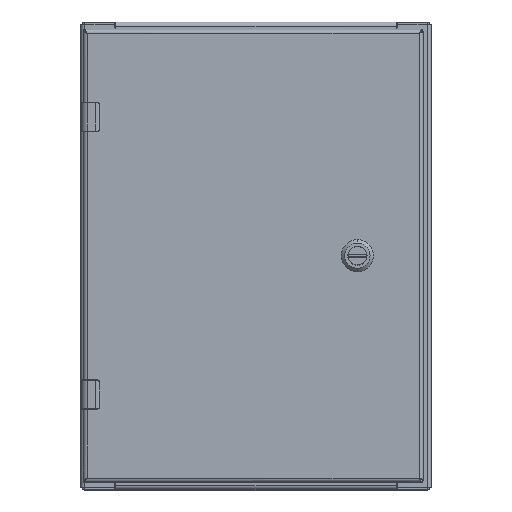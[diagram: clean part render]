
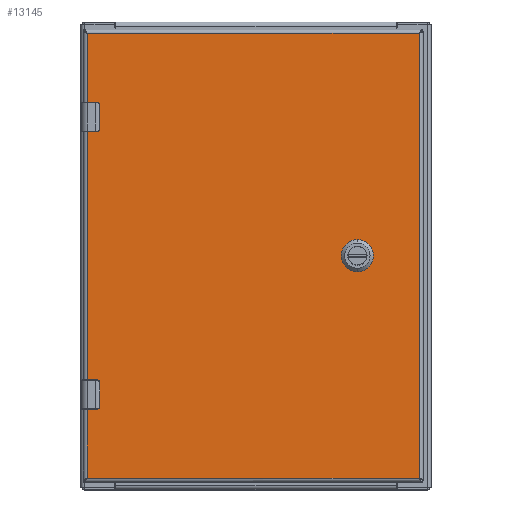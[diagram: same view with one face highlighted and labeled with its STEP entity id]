
A CAD part, top view. The second image highlights one B-rep face of the part: STEP entity #13145.
In plain terms, the highlighted planar face has unit normal (0, 0, 1).
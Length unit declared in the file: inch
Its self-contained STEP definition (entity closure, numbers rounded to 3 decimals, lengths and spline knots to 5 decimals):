
#10364=CARTESIAN_POINT('',(3.5625,0.,0.));
#10365=DIRECTION('',(0.,0.,1.));
#10366=DIRECTION('',(-0.448,0.894,0.));
#10367=AXIS2_PLACEMENT_3D('',#10364,#10365,#10366);
#10372=DIRECTION('',(0.,-1.,0.));
#10373=VECTOR('',#10372,0.39715);
#10374=CARTESIAN_POINT('',(3.1665,0.19858,0.));
#10375=LINE('',#10374,#10373);
#10379=CARTESIAN_POINT('',(3.5625,0.,0.));
#10380=DIRECTION('',(0.,0.,1.));
#10381=DIRECTION('',(-0.894,-0.448,0.));
#10382=AXIS2_PLACEMENT_3D('',#10379,#10380,#10381);
#10387=DIRECTION('',(1.,0.,0.));
#10388=VECTOR('',#10387,0.39715);
#10389=CARTESIAN_POINT('',(3.36392,-0.396,0.));
#10390=LINE('',#10389,#10388);
#10394=CARTESIAN_POINT('',(3.5625,0.,0.));
#10395=DIRECTION('',(0.,0.,1.));
#10396=DIRECTION('',(0.448,-0.894,0.));
#10397=AXIS2_PLACEMENT_3D('',#10394,#10395,#10396);
#10402=DIRECTION('',(0.,1.,0.));
#10403=VECTOR('',#10402,0.39715);
#10404=CARTESIAN_POINT('',(3.9585,-0.19858,0.));
#10405=LINE('',#10404,#10403);
#10409=CARTESIAN_POINT('',(3.5625,0.,0.));
#10410=DIRECTION('',(0.,0.,1.));
#10411=DIRECTION('',(0.894,0.448,0.));
#10412=AXIS2_PLACEMENT_3D('',#10409,#10410,#10411);
#10417=DIRECTION('',(-1.,0.,0.));
#10418=VECTOR('',#10417,0.39715);
#10419=CARTESIAN_POINT('',(3.76108,0.396,0.));
#10420=LINE('',#10419,#10418);
#10424=DIRECTION('',(1.,0.,0.));
#10425=VECTOR('',#10424,0.34892);
#10426=CARTESIAN_POINT('',(-5.6775,-5.095,0.));
#10427=LINE('',#10426,#10425);
#10431=DIRECTION('',(0.,1.,0.));
#10432=VECTOR('',#10431,0.63);
#10433=CARTESIAN_POINT('',(-5.29858,-5.065,0.));
#10434=LINE('',#10433,#10432);
#10438=DIRECTION('',(1.,0.,0.));
#10439=VECTOR('',#10438,0.34892);
#10440=CARTESIAN_POINT('',(-5.6775,-4.405,0.));
#10441=LINE('',#10440,#10439);
#10445=DIRECTION('',(1.,0.,0.));
#10446=VECTOR('',#10445,0.34892);
#10447=CARTESIAN_POINT('',(-5.6775,4.405,0.));
#10448=LINE('',#10447,#10446);
#10452=DIRECTION('',(0.,1.,0.));
#10453=VECTOR('',#10452,0.63);
#10454=CARTESIAN_POINT('',(-5.29858,4.435,0.));
#10455=LINE('',#10454,#10453);
#10459=DIRECTION('',(1.,0.,0.));
#10460=VECTOR('',#10459,0.34892);
#10461=CARTESIAN_POINT('',(-5.6775,5.095,0.));
#10462=LINE('',#10461,#10460);
#10921=CARTESIAN_POINT('',(-5.32858,-4.435,0.));
#10922=DIRECTION('',(0.,0.,-1.));
#10923=DIRECTION('',(0.,1.,0.));
#10924=AXIS2_PLACEMENT_3D('',#10921,#10922,#10923);
#10951=CARTESIAN_POINT('',(-5.32858,-5.065,0.));
#10952=DIRECTION('',(0.,0.,-1.));
#10953=DIRECTION('',(1.,0.,0.));
#10954=AXIS2_PLACEMENT_3D('',#10951,#10952,#10953);
#11004=DIRECTION('',(0.,1.,0.));
#11005=VECTOR('',#11004,8.81);
#11006=CARTESIAN_POINT('',(-5.6775,-4.405,0.));
#11007=LINE('',#11006,#11005);
#11033=DIRECTION('',(0.,1.,0.));
#11034=VECTOR('',#11033,2.52);
#11035=CARTESIAN_POINT('',(-5.6775,5.095,0.));
#11036=LINE('',#11035,#11034);
#11092=DIRECTION('',(0.,1.,0.));
#11093=VECTOR('',#11092,2.52);
#11094=CARTESIAN_POINT('',(-5.6775,-7.615,0.));
#11095=LINE('',#11094,#11093);
#11755=CARTESIAN_POINT('',(-5.32858,4.435,0.));
#11756=DIRECTION('',(0.,0.,-1.));
#11757=DIRECTION('',(1.,0.,0.));
#11758=AXIS2_PLACEMENT_3D('',#11755,#11756,#11757);
#11785=CARTESIAN_POINT('',(-5.32858,5.065,0.));
#11786=DIRECTION('',(0.,0.,-1.));
#11787=DIRECTION('',(0.,1.,0.));
#11788=AXIS2_PLACEMENT_3D('',#11785,#11786,#11787);
#12449=DIRECTION('',(-1.,0.,0.));
#12450=VECTOR('',#12449,11.355);
#12451=CARTESIAN_POINT('',(5.6775,-7.615,0.));
#12452=LINE('',#12451,#12450);
#12505=DIRECTION('',(0.,-1.,0.));
#12506=VECTOR('',#12505,15.23);
#12507=CARTESIAN_POINT('',(5.6775,7.615,0.));
#12508=LINE('',#12507,#12506);
#12650=DIRECTION('',(1.,0.,0.));
#12651=VECTOR('',#12650,11.355);
#12652=CARTESIAN_POINT('',(-5.6775,7.615,0.));
#12653=LINE('',#12652,#12651);
#12720=CARTESIAN_POINT('',(5.6775,7.615,0.));
#12721=CARTESIAN_POINT('',(5.6775,-7.615,0.));
#12722=VERTEX_POINT('',#12720);
#12723=VERTEX_POINT('',#12721);
#12808=CARTESIAN_POINT('',(3.36392,0.396,0.));
#12809=CARTESIAN_POINT('',(3.1665,0.19858,0.));
#12810=VERTEX_POINT('',#12808);
#12811=VERTEX_POINT('',#12809);
#12812=CARTESIAN_POINT('',(3.1665,-0.19858,0.));
#12813=VERTEX_POINT('',#12812);
#12814=CARTESIAN_POINT('',(3.36392,-0.396,0.));
#12815=VERTEX_POINT('',#12814);
#12816=CARTESIAN_POINT('',(3.76108,-0.396,0.));
#12817=VERTEX_POINT('',#12816);
#12818=CARTESIAN_POINT('',(3.9585,-0.19858,0.));
#12819=VERTEX_POINT('',#12818);
#12820=CARTESIAN_POINT('',(3.9585,0.19858,0.));
#12821=VERTEX_POINT('',#12820);
#12822=CARTESIAN_POINT('',(3.76108,0.396,0.));
#12823=VERTEX_POINT('',#12822);
#12913=CARTESIAN_POINT('',(-5.6775,7.615,0.));
#12915=VERTEX_POINT('',#12913);
#12920=CARTESIAN_POINT('',(-5.6775,-7.615,0.));
#12922=VERTEX_POINT('',#12920);
#12992=CARTESIAN_POINT('',(-5.6775,4.405,0.));
#12994=VERTEX_POINT('',#12992);
#12996=CARTESIAN_POINT('',(-5.6775,5.095,0.));
#12998=VERTEX_POINT('',#12996);
#13008=CARTESIAN_POINT('',(-5.6775,-5.095,0.));
#13010=VERTEX_POINT('',#13008);
#13012=CARTESIAN_POINT('',(-5.6775,-4.405,0.));
#13014=VERTEX_POINT('',#13012);
#13024=CARTESIAN_POINT('',(-5.32858,5.095,0.));
#13026=VERTEX_POINT('',#13024);
#13028=CARTESIAN_POINT('',(-5.29858,5.065,0.));
#13030=VERTEX_POINT('',#13028);
#13032=CARTESIAN_POINT('',(-5.29858,4.435,0.));
#13034=VERTEX_POINT('',#13032);
#13036=CARTESIAN_POINT('',(-5.32858,4.405,0.));
#13038=VERTEX_POINT('',#13036);
#13056=CARTESIAN_POINT('',(-5.32858,-4.405,0.));
#13058=VERTEX_POINT('',#13056);
#13060=CARTESIAN_POINT('',(-5.29858,-4.435,0.));
#13062=VERTEX_POINT('',#13060);
#13064=CARTESIAN_POINT('',(-5.29858,-5.065,0.));
#13066=VERTEX_POINT('',#13064);
#13068=CARTESIAN_POINT('',(-5.32858,-5.095,0.));
#13070=VERTEX_POINT('',#13068);
#13088=CARTESIAN_POINT('',(0.,0.,0.));
#13089=DIRECTION('',(0.,0.,-1.));
#13090=DIRECTION('',(1.,0.,0.));
#13091=AXIS2_PLACEMENT_3D('',#13088,#13089,#13090);
#13092=PLANE('',#13091);
#13094=ORIENTED_EDGE('',*,*,#13093,.T.);
#13096=ORIENTED_EDGE('',*,*,#13095,.T.);
#13098=ORIENTED_EDGE('',*,*,#13097,.T.);
#13100=ORIENTED_EDGE('',*,*,#13099,.F.);
#13102=ORIENTED_EDGE('',*,*,#13101,.T.);
#13104=ORIENTED_EDGE('',*,*,#13103,.F.);
#13106=ORIENTED_EDGE('',*,*,#13105,.F.);
#13108=ORIENTED_EDGE('',*,*,#13107,.T.);
#13110=ORIENTED_EDGE('',*,*,#13109,.T.);
#13112=ORIENTED_EDGE('',*,*,#13111,.F.);
#13114=ORIENTED_EDGE('',*,*,#13113,.T.);
#13116=ORIENTED_EDGE('',*,*,#13115,.F.);
#13118=ORIENTED_EDGE('',*,*,#13117,.F.);
#13120=ORIENTED_EDGE('',*,*,#13119,.T.);
#13122=ORIENTED_EDGE('',*,*,#13121,.T.);
#13124=ORIENTED_EDGE('',*,*,#13123,.T.);
#13125=EDGE_LOOP('',(#13094,#13096,#13098,#13100,#13102,#13104,#13106,#13108,
#13110,#13112,#13114,#13116,#13118,#13120,#13122,#13124));
#13126=FACE_OUTER_BOUND('',#13125,.F.);
#13128=ORIENTED_EDGE('',*,*,#13127,.T.);
#13130=ORIENTED_EDGE('',*,*,#13129,.T.);
#13132=ORIENTED_EDGE('',*,*,#13131,.T.);
#13134=ORIENTED_EDGE('',*,*,#13133,.T.);
#13136=ORIENTED_EDGE('',*,*,#13135,.T.);
#13138=ORIENTED_EDGE('',*,*,#13137,.T.);
#13140=ORIENTED_EDGE('',*,*,#13139,.T.);
#13142=ORIENTED_EDGE('',*,*,#13141,.T.);
#13143=EDGE_LOOP('',(#13128,#13130,#13132,#13134,#13136,#13138,#13140,#13142));
#13144=FACE_BOUND('',#13143,.F.);
#10368=CIRCLE('',#10367,0.443);
#10383=CIRCLE('',#10382,0.443);
#10398=CIRCLE('',#10397,0.443);
#10413=CIRCLE('',#10412,0.443);
#10925=CIRCLE('',#10924,0.03);
#10955=CIRCLE('',#10954,0.03);
#11759=CIRCLE('',#11758,0.03);
#11789=CIRCLE('',#11788,0.03);
#13093=EDGE_CURVE('',#12723,#12922,#12452,.T.);
#13095=EDGE_CURVE('',#12922,#13010,#11095,.T.);
#13097=EDGE_CURVE('',#13010,#13070,#10427,.T.);
#13099=EDGE_CURVE('',#13066,#13070,#10955,.T.);
#13101=EDGE_CURVE('',#13066,#13062,#10434,.T.);
#13103=EDGE_CURVE('',#13058,#13062,#10925,.T.);
#13105=EDGE_CURVE('',#13014,#13058,#10441,.T.);
#13107=EDGE_CURVE('',#13014,#12994,#11007,.T.);
#13109=EDGE_CURVE('',#12994,#13038,#10448,.T.);
#13111=EDGE_CURVE('',#13034,#13038,#11759,.T.);
#13113=EDGE_CURVE('',#13034,#13030,#10455,.T.);
#13115=EDGE_CURVE('',#13026,#13030,#11789,.T.);
#13117=EDGE_CURVE('',#12998,#13026,#10462,.T.);
#13119=EDGE_CURVE('',#12998,#12915,#11036,.T.);
#13121=EDGE_CURVE('',#12915,#12722,#12653,.T.);
#13123=EDGE_CURVE('',#12722,#12723,#12508,.T.);
#13127=EDGE_CURVE('',#12810,#12811,#10368,.T.);
#13129=EDGE_CURVE('',#12811,#12813,#10375,.T.);
#13131=EDGE_CURVE('',#12813,#12815,#10383,.T.);
#13133=EDGE_CURVE('',#12815,#12817,#10390,.T.);
#13135=EDGE_CURVE('',#12817,#12819,#10398,.T.);
#13137=EDGE_CURVE('',#12819,#12821,#10405,.T.);
#13139=EDGE_CURVE('',#12821,#12823,#10413,.T.);
#13141=EDGE_CURVE('',#12823,#12810,#10420,.T.);
#13145=ADVANCED_FACE('',(#13126,#13144),#13092,.F.);
